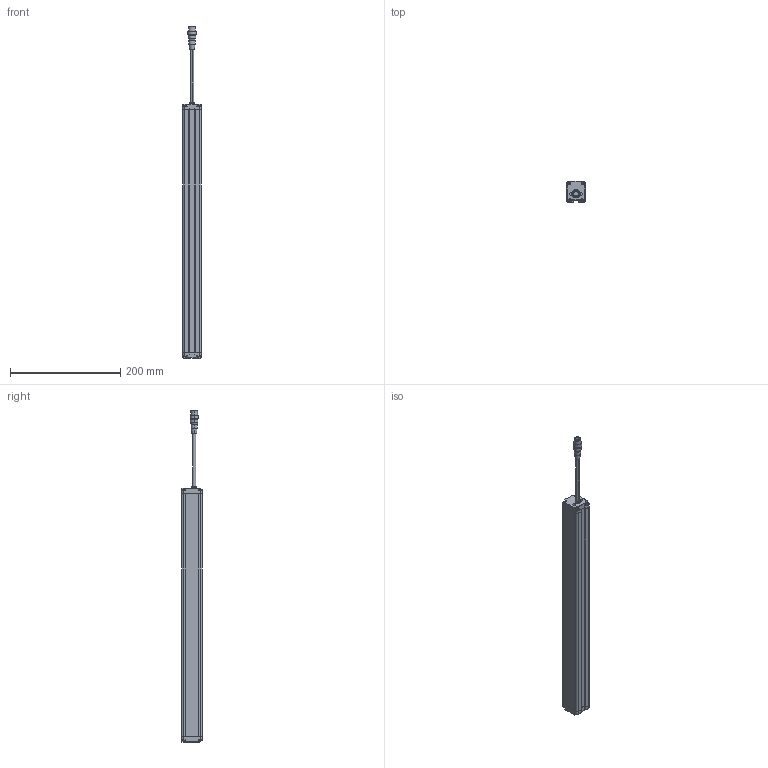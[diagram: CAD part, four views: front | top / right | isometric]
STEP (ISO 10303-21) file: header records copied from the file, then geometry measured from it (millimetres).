
FILE_DESCRIPTION((''),'2;1');
FILE_NAME('PRT0014','2026-03-31T10:16:59',('Administrator'),(''),'CREO PARAMETRIC BY PTC INC, 2016510','CREO PARAMETRIC BY PTC INC, 2016510','');
FILE_SCHEMA(('AUTOMOTIVE_DESIGN { 1 0 10303 214 1 1 1 1 }'));
Length unit declared in the file: millimetre
Products named in the file (1): PRT0014
Bounding box: 33 x 38 x 601.9 mm (x, y, z)
Surface area: 109652.6 mm2 (no closed solid volume)
Topology: 0 solids, 12 shells, 819 faces, 2210 edges, 1418 vertices
Faces by surface type: plane 388, cylinder 235, extrusion 88, sphere 40, torus 36, cone 28, bspline 4
Entity records: 32642 total; most frequent: CARTESIAN_POINT 6184, ORIENTED_EDGE 4332, DIRECTION 4060, EDGE_CURVE 2166, VERTEX_POINT 1418, AXIS2_PLACEMENT_3D 1386, VECTOR 1288, LINE 1200
